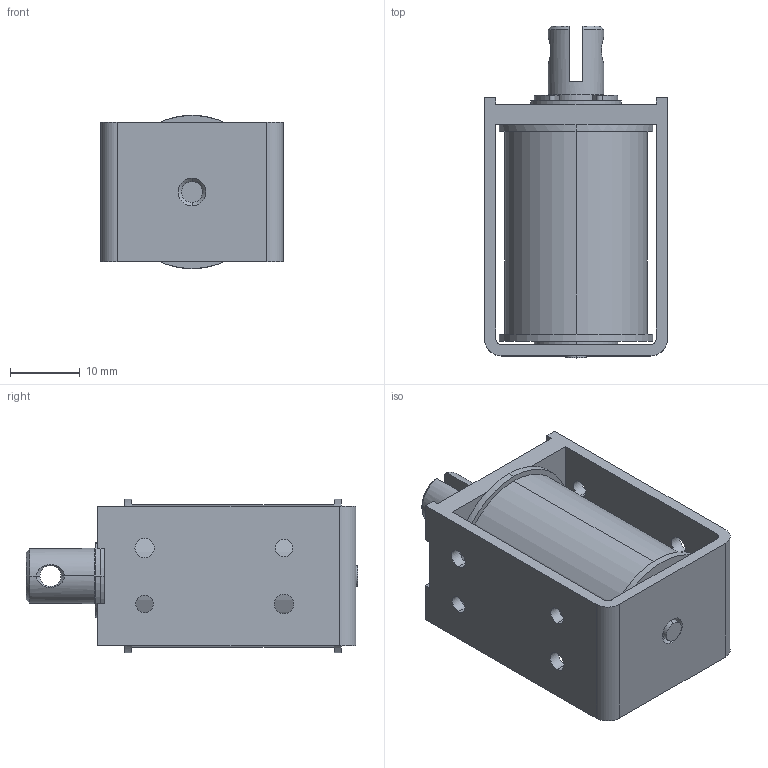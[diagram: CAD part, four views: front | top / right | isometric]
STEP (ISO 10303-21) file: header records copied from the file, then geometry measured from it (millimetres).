
FILE_DESCRIPTION (( 'STEP AP203' ), '1' );
FILE_NAME ('w_ce0837.STEP', '2014-07-24T02:04:55', ( 'jiba' ), ( 'Hewlett-Packard Company' ), 'SwSTEP 2.0', 'SolidWorks 2014', '' );
FILE_SCHEMA (( 'CONFIG_CONTROL_DESIGN' ));
Length unit declared in the file: millimetre
Products named in the file (3): Part11^w_ce0837; Part1^w_ce0837_pl; w_ce0837
Assembly tree (2 placements, depth 2):
  w_ce0837
    Part11^w_ce0837
    Part1^w_ce0837_pl
Bounding box: 26.2 x 47.59 x 22 mm (x, y, z)
Volume: 15008 mm3; surface area: 9157.4 mm2
Topology: 2 solids, 2 shells, 137 faces, 363 edges, 233 vertices
Faces by surface type: cylinder 73, plane 55, cone 9
Entity records: 4745 total; most frequent: CARTESIAN_POINT 834, DIRECTION 818, ORIENTED_EDGE 726, EDGE_CURVE 363, AXIS2_PLACEMENT_3D 321, VERTEX_POINT 233, CIRCLE 179, LINE 176
